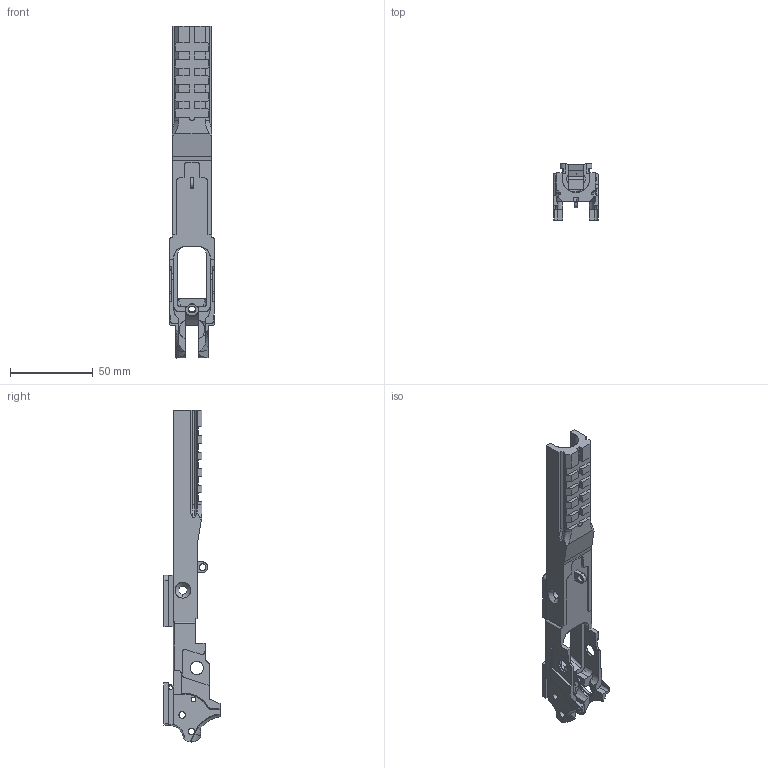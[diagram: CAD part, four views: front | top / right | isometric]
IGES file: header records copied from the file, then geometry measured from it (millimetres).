
Start section: SolidWorks IGES file using analytic representation for surfaces
Global section: file name: \\PSSILO\catalogs\ContentCentral\STI rec\Cache\P.544B.tmp\6F728202-8BA9-4203-8AA3-DA6BEB7B68A9.IGS; native system: SolidWorks 2010; preprocessor: SolidWorks 2010; author: partstream; date: 100827.214348; units: inch
Bounding box: 27.03 x 33.91 x 201.02 mm (x, y, z)
Surface area: 24372.4 mm2 (no closed solid volume)
Topology: 0 solids, 0 shells, 361 faces, 4418 edges, 4414 vertices
Faces by surface type: bspline 217, revolution 144
